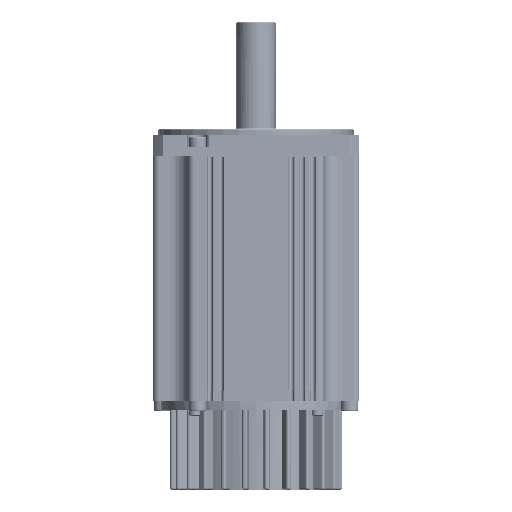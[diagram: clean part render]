
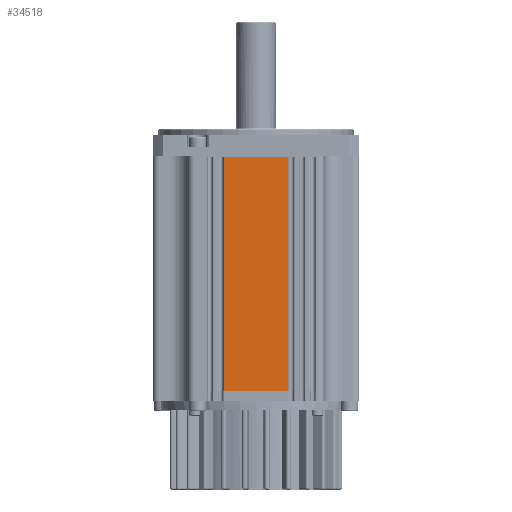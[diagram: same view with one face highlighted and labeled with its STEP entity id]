
A CAD part, front view. The second image highlights one B-rep face of the part: STEP entity #34518.
In plain terms, the highlighted planar face has unit normal (0, -1, 0).
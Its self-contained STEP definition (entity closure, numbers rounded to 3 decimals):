
#30849=DIRECTION('',(0.,0.,1.));
#30850=VECTOR('',#30849,113.5);
#30851=CARTESIAN_POINT('',(15.4,-50.,0.));
#30852=LINE('',#30851,#30850);
#30877=DIRECTION('',(-1.,0.,0.));
#30878=VECTOR('',#30877,30.8);
#30879=CARTESIAN_POINT('',(15.4,-50.,113.5));
#30880=LINE('',#30879,#30878);
#31515=DIRECTION('',(-1.,0.,0.));
#31516=VECTOR('',#31515,30.8);
#31517=CARTESIAN_POINT('',(15.4,-50.,0.));
#31518=LINE('',#31517,#31516);
#31523=DIRECTION('',(0.,0.,-1.));
#31524=VECTOR('',#31523,113.5);
#31525=CARTESIAN_POINT('',(-15.4,-50.,113.5));
#31526=LINE('',#31525,#31524);
#33269=CARTESIAN_POINT('',(-15.4,-50.,0.));
#33270=VERTEX_POINT('',#33269);
#33271=CARTESIAN_POINT('',(15.4,-50.,0.));
#33272=VERTEX_POINT('',#33271);
#33424=CARTESIAN_POINT('',(15.4,-50.,113.5));
#33425=VERTEX_POINT('',#33424);
#33426=CARTESIAN_POINT('',(-15.4,-50.,113.5));
#33427=VERTEX_POINT('',#33426);
#34506=CARTESIAN_POINT('',(-33.,-50.,0.));
#34507=DIRECTION('',(0.,-1.,0.));
#34508=DIRECTION('',(1.,0.,0.));
#34509=AXIS2_PLACEMENT_3D('',#34506,#34507,#34508);
#34510=PLANE('',#34509);
#34511=ORIENTED_EDGE('',*,*,#34169,.F.);
#34512=ORIENTED_EDGE('',*,*,#34055,.T.);
#34514=ORIENTED_EDGE('',*,*,#34513,.F.);
#34515=ORIENTED_EDGE('',*,*,#34185,.F.);
#34516=EDGE_LOOP('',(#34511,#34512,#34514,#34515));
#34517=FACE_OUTER_BOUND('',#34516,.F.);
#34518=ADVANCED_FACE('',(#34517),#34510,.T.);
#34055=EDGE_CURVE('',#33272,#33270,#31518,.T.);
#34169=EDGE_CURVE('',#33272,#33425,#30852,.T.);
#34185=EDGE_CURVE('',#33425,#33427,#30880,.T.);
#34513=EDGE_CURVE('',#33427,#33270,#31526,.T.);
